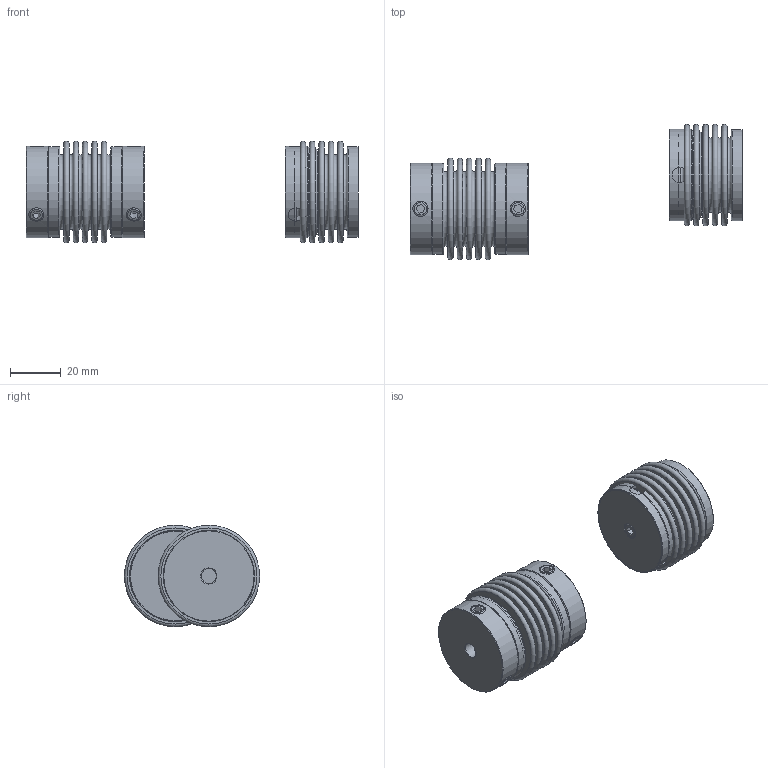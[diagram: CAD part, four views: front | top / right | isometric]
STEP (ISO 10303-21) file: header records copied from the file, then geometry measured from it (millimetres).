
FILE_DESCRIPTION( ( 'Unknown' ), '1' );
FILE_NAME( 'C:/Dokumente und Einstellungen/Sven/Desktop/cad - homepage/KB1/KB1-100-45.stp', 'Unknown', ( 'Unknown' ), ( 'Unknown' ), 'XStep 1.0', 'Unknown', ' ' );
FILE_SCHEMA( ( 'automotive_design' ) );
Length unit declared in the file: millimetre
Products named in the file (4): Assem1; MN100_Standard; Socket Set Screw Cup Point_DIN_DIN 916 - M6 x 10-N; BK100_Standard
Bounding box: 130.86 x 53.29 x 39.99 mm (x, y, z)
Volume: 40288.4 mm3; surface area: 47986.1 mm2
Topology: 10 solids, 10 shells, 211 faces, 424 edges, 272 vertices
Faces by surface type: plane 101, torus 52, cylinder 31, cone 27
Full cylindrical faces by diameter (mm): 6 x14, 35.2 x7, 35.8 x4, 36 x3
Entity records: 2424 total; most frequent: CARTESIAN_POINT 407, DIRECTION 351, ORIENTED_EDGE 196, AXIS2_PLACEMENT_3D 166, EDGE_LOOP 155, FACE_OUTER_BOUND 117, EDGE_CURVE 98, VERTEX_POINT 90
